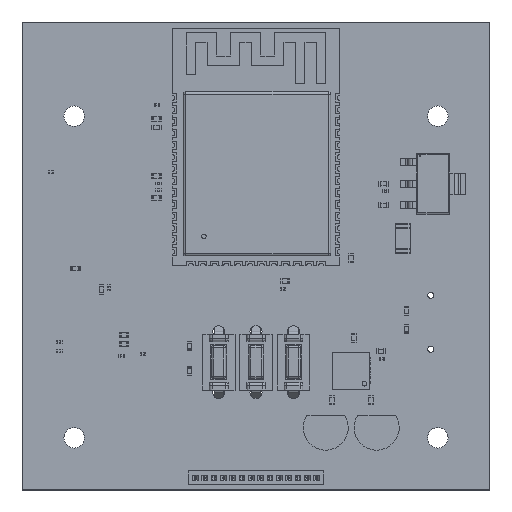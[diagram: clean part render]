
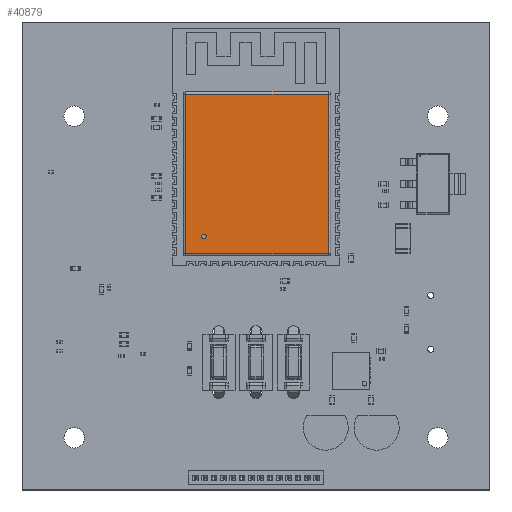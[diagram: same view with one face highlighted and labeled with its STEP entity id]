
A CAD part, top view. The second image highlights one B-rep face of the part: STEP entity #40879.
In plain terms, the highlighted planar face has unit normal (0, 0, 1).
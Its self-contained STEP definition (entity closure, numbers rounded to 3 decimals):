
#40703 = VERTEX_POINT('',#40704);
#40704 = CARTESIAN_POINT('',(-7.55,5.65,3.1));
#40711 = EDGE_CURVE('',#40703,#40712,#40714,.T.);
#40712 = VERTEX_POINT('',#40713);
#40713 = CARTESIAN_POINT('',(7.75,5.65,3.1));
#40714 = LINE('',#40715,#40716);
#40715 = CARTESIAN_POINT('',(-7.8,5.65,3.1));
#40716 = VECTOR('',#40717,1.);
#40717 = DIRECTION('',(1.,0.,0.));
#40879 = ADVANCED_FACE('',(#40880,#40905),#40916,.T.);
#40880 = FACE_BOUND('',#40881,.T.);
#40881 = EDGE_LOOP('',(#40882,#40892,#40898,#40899));
#40882 = ORIENTED_EDGE('',*,*,#40883,.F.);
#40883 = EDGE_CURVE('',#40884,#40886,#40888,.T.);
#40884 = VERTEX_POINT('',#40885);
#40885 = CARTESIAN_POINT('',(7.75,-11.45,3.1));
#40886 = VERTEX_POINT('',#40887);
#40887 = CARTESIAN_POINT('',(-7.55,-11.45,3.1));
#40888 = LINE('',#40889,#40890);
#40889 = CARTESIAN_POINT('',(8.,-11.45,3.1));
#40890 = VECTOR('',#40891,1.);
#40891 = DIRECTION('',(-1.,0.,0.));
#40892 = ORIENTED_EDGE('',*,*,#40893,.F.);
#40893 = EDGE_CURVE('',#40712,#40884,#40894,.T.);
#40894 = LINE('',#40895,#40896);
#40895 = CARTESIAN_POINT('',(7.75,5.9,3.1));
#40896 = VECTOR('',#40897,1.);
#40897 = DIRECTION('',(0.,-1.,0.));
#40898 = ORIENTED_EDGE('',*,*,#40711,.F.);
#40899 = ORIENTED_EDGE('',*,*,#40900,.F.);
#40900 = EDGE_CURVE('',#40886,#40703,#40901,.T.);
#40901 = LINE('',#40902,#40903);
#40902 = CARTESIAN_POINT('',(-7.55,-11.7,3.1));
#40903 = VECTOR('',#40904,1.);
#40904 = DIRECTION('',(0.,1.,0.));
#40905 = FACE_BOUND('',#40906,.T.);
#40906 = EDGE_LOOP('',(#40907));
#40907 = ORIENTED_EDGE('',*,*,#40908,.F.);
#40908 = EDGE_CURVE('',#40909,#40909,#40911,.T.);
#40909 = VERTEX_POINT('',#40910);
#40910 = CARTESIAN_POINT('',(-5.35,-9.6,3.1));
#40911 = CIRCLE('',#40912,0.25);
#40912 = AXIS2_PLACEMENT_3D('',#40913,#40914,#40915);
#40913 = CARTESIAN_POINT('',(-5.6,-9.6,3.1));
#40914 = DIRECTION('',(0.,0.,1.));
#40915 = DIRECTION('',(1.,0.,-0.));
#40916 = PLANE('',#40917);
#40917 = AXIS2_PLACEMENT_3D('',#40918,#40919,#40920);
#40918 = CARTESIAN_POINT('',(0.1,-2.9,3.1));
#40919 = DIRECTION('',(0.,0.,1.));
#40920 = DIRECTION('',(1.,0.,-0.));
